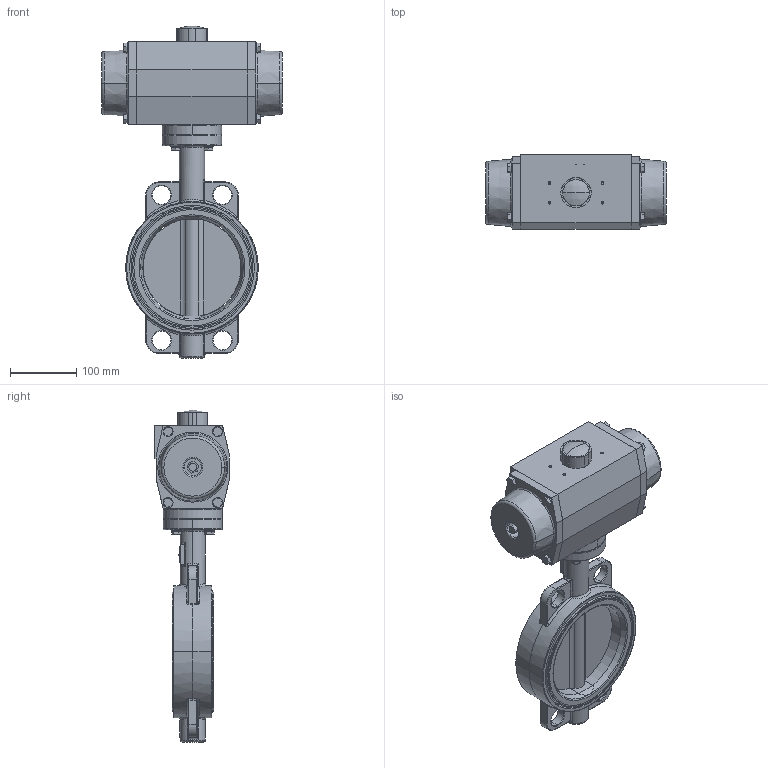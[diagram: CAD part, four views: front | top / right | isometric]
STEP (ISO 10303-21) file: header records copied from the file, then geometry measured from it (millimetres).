
FILE_DESCRIPTION (( 'STEP AP214' ), '1' );
FILE_NAME ('VTB200 DN150 + AP4D.STEP', '2015-10-04T19:19:33', ( '' ), ( '' ), 'SwSTEP 2.0', 'SolidWorks 2013', '' );
FILE_SCHEMA (( 'AUTOMOTIVE_DESIGN' ));
Length unit declared in the file: millimetre
Products named in the file (10): plain washer clevis pin grade a_din_Washer ISO 8738 - 8; VERLSTER17_14; YF090F5F7H16D16NYL; AP4_Default<As Machined>; VTB200 Wafer DN150 BS; Typeplaatje xxmm; Klep VTB200 DN150 2013; Huis met zitting DN150 2013; VTB200 DN150 + AP4D; hex bolt gradeab_din_ISO 4014 - M8 x 40 x 22-N
Assembly tree (15 placements, depth 3):
  VTB200 DN150 + AP4D
    VTB200 Wafer DN150 BS
      Huis met zitting DN150 2013
      Klep VTB200 DN150 2013
      Typeplaatje xxmm
    AP4_Default<As Machined>
    YF090F5F7H16D16NYL
    VERLSTER17_14
    plain washer clevis pin grade a_din_Washer ISO 8738 - 8  x4
    hex bolt gradeab_din_ISO 4014 - M8 x 40 x 22-N  x4
Bounding box: 273.5 x 112.5 x 502.51 mm (x, y, z)
Volume: 4591435.2 mm3; surface area: 432524.4 mm2
Topology: 25 solids, 25 shells, 1031 faces, 2467 edges, 1505 vertices
Faces by surface type: plane 461, cylinder 283, bspline 109, torus 87, cone 81, sphere 10
Entity records: 37218 total; most frequent: CARTESIAN_POINT 12251, ORIENTED_EDGE 4382, DIRECTION 4358, EDGE_CURVE 2191, AXIS2_PLACEMENT_3D 1616, VERTEX_POINT 1379, LINE 1126, VECTOR 1126
